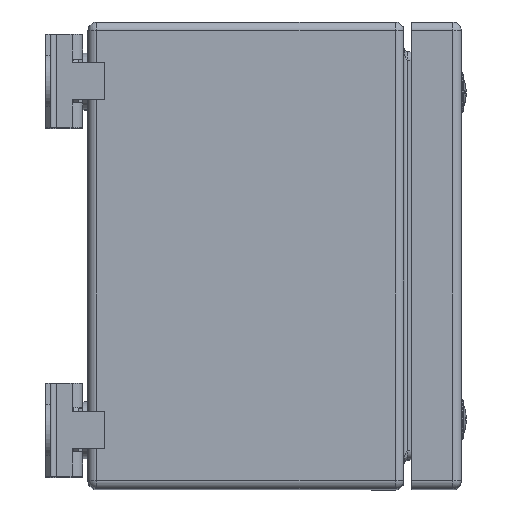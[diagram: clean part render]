
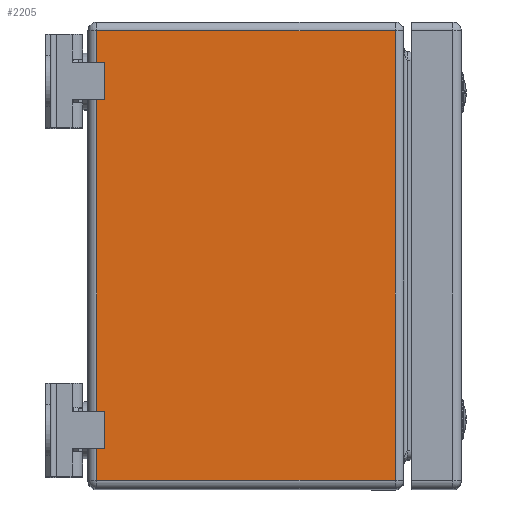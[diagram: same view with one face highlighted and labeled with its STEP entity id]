
A CAD part, top view. The second image highlights one B-rep face of the part: STEP entity #2205.
In plain terms, the highlighted planar face has unit normal (0, 0, 1).
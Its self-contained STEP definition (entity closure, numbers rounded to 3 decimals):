
#2205=ADVANCED_FACE('',(#3257),#3259,.T.);
#3257=FACE_BOUND('',#3258,.T.);
#3258=EDGE_LOOP('',(#7498,#7499,#7500,#7501));
#3259=PLANE('',#3260);
#3260=AXIS2_PLACEMENT_3D('',#3261,#3262,#3263);
#3261=CARTESIAN_POINT('',(98.7,72.2,100.));
#3262=DIRECTION('',(0.,0.,1.));
#3263=DIRECTION('',(-1.,0.,0.));
#7498=ORIENTED_EDGE('',*,*,#9224,.T.);
#7499=ORIENTED_EDGE('',*,*,#9225,.F.);
#7500=ORIENTED_EDGE('',*,*,#9226,.F.);
#7501=ORIENTED_EDGE('',*,*,#9227,.T.);
#9224=EDGE_CURVE('',#10272,#10273,#10274,.T.);
#9225=EDGE_CURVE('',#10275,#10273,#10276,.T.);
#9226=EDGE_CURVE('',#10277,#10275,#10278,.T.);
#9227=EDGE_CURVE('',#10277,#10272,#10279,.T.);
#10272=VERTEX_POINT('',#12139);
#10273=VERTEX_POINT('',#12140);
#10274=LINE('',#12141,#12142);
#10275=VERTEX_POINT('',#12144);
#10276=LINE('',#12145,#12146);
#10277=VERTEX_POINT('',#12148);
#10278=LINE('',#12149,#12150);
#10279=LINE('',#12152,#12153);
#12139=CARTESIAN_POINT('',(2.8,-72.2,100.));
#12140=CARTESIAN_POINT('',(98.7,-72.2,100.));
#12141=CARTESIAN_POINT('',(2.8,-72.2,100.));
#12142=VECTOR('',#12143,1.);
#12143=DIRECTION('',(1.,0.,0.));
#12144=CARTESIAN_POINT('',(98.7,72.2,100.));
#12145=CARTESIAN_POINT('',(98.7,72.2,100.));
#12146=VECTOR('',#12147,1.);
#12147=DIRECTION('',(0.,-1.,0.));
#12148=CARTESIAN_POINT('',(2.8,72.2,100.));
#12149=CARTESIAN_POINT('',(2.8,72.2,100.));
#12150=VECTOR('',#12151,1.);
#12151=DIRECTION('',(1.,0.,0.));
#12152=CARTESIAN_POINT('',(2.8,72.2,100.));
#12153=VECTOR('',#12154,1.);
#12154=DIRECTION('',(0.,-1.,0.));
